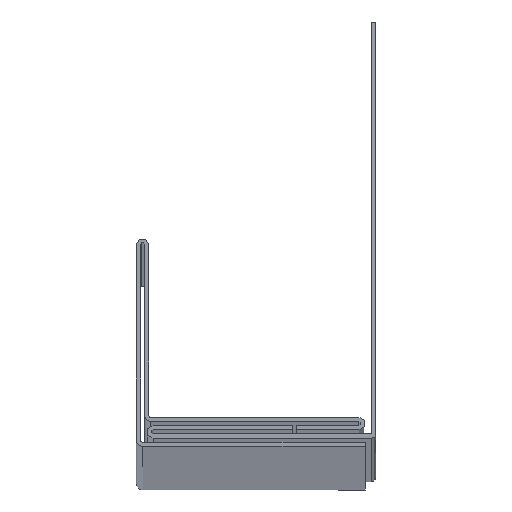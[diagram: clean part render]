
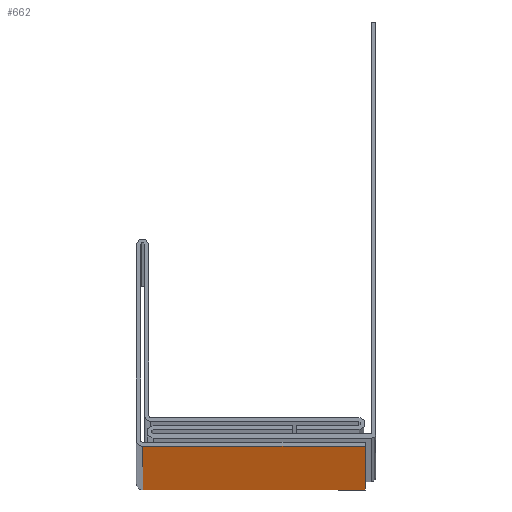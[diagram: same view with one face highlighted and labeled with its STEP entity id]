
A CAD part, top view. The second image highlights one B-rep face of the part: STEP entity #662.
In plain terms, the highlighted planar face has unit normal (0, -1, 0).
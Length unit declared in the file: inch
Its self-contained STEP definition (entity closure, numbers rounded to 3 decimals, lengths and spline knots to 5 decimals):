
#70=FACE_OUTER_BOUND('',#106,.T.);
#106=EDGE_LOOP('',(#452,#453,#454,#455));
#146=LINE('',#1027,#218);
#147=LINE('',#1030,#219);
#148=LINE('',#1032,#220);
#149=LINE('',#1033,#221);
#218=VECTOR('',#821,0.3937);
#219=VECTOR('',#824,0.3937);
#220=VECTOR('',#825,0.3937);
#221=VECTOR('',#826,0.3937);
#288=VERTEX_POINT('',#1023);
#289=VERTEX_POINT('',#1025);
#290=VERTEX_POINT('',#1029);
#291=VERTEX_POINT('',#1031);
#354=EDGE_CURVE('',#288,#289,#146,.T.);
#355=EDGE_CURVE('',#290,#288,#147,.T.);
#356=EDGE_CURVE('',#291,#289,#148,.T.);
#357=EDGE_CURVE('',#290,#291,#149,.T.);
#452=ORIENTED_EDGE('',*,*,#355,.T.);
#453=ORIENTED_EDGE('',*,*,#354,.T.);
#454=ORIENTED_EDGE('',*,*,#356,.F.);
#455=ORIENTED_EDGE('',*,*,#357,.F.);
#638=PLANE('',#745);
#662=ADVANCED_FACE('',(#70),#638,.T.);
#745=AXIS2_PLACEMENT_3D('',#1028,#822,#823);
#821=DIRECTION('',(0.,0.,1.));
#822=DIRECTION('center_axis',(0.,-1.,0.));
#823=DIRECTION('ref_axis',(1.,0.,0.));
#824=DIRECTION('',(1.,0.,0.));
#825=DIRECTION('',(1.,0.,0.));
#826=DIRECTION('',(0.,0.,1.));
#1023=CARTESIAN_POINT('',(0.43149,-0.20698,0.));
#1025=CARTESIAN_POINT('',(0.43149,-0.20698,120.));
#1027=CARTESIAN_POINT('',(0.43149,-0.20698,0.));
#1028=CARTESIAN_POINT('Origin',(-0.63851,-0.20698,0.));
#1029=CARTESIAN_POINT('',(-0.63851,-0.20698,0.));
#1030=CARTESIAN_POINT('',(-0.63851,-0.20698,0.));
#1031=CARTESIAN_POINT('',(-0.63851,-0.20698,120.));
#1032=CARTESIAN_POINT('',(-0.63851,-0.20698,120.));
#1033=CARTESIAN_POINT('',(-0.63851,-0.20698,0.));
